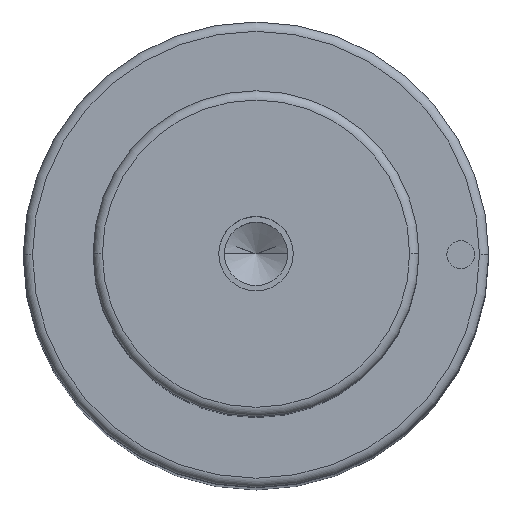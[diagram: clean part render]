
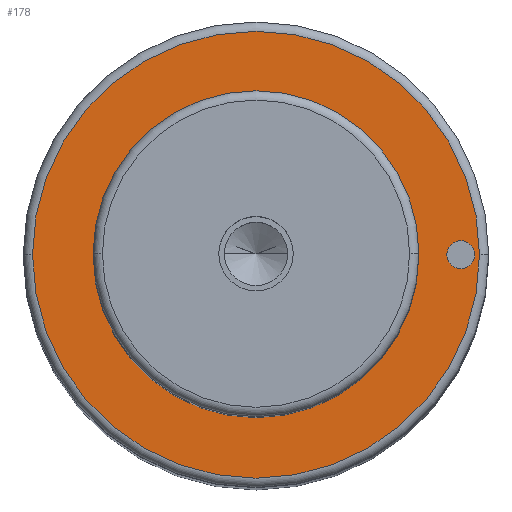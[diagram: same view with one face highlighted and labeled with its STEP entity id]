
A CAD part, top view. The second image highlights one B-rep face of the part: STEP entity #178.
In plain terms, the highlighted planar face has unit normal (0, 0, 1).
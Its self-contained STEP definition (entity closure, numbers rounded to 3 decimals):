
#105=PLANE('',#866);
#115=FACE_BOUND('',#283,.T.);
#116=FACE_BOUND('',#284,.T.);
#117=FACE_BOUND('',#285,.T.);
#178=ADVANCED_FACE('',(#115,#116,#117),#105,.T.);
#283=EDGE_LOOP('',(#473,#474));
#284=EDGE_LOOP('',(#475,#476));
#285=EDGE_LOOP('',(#477,#478));
#333=CIRCLE('',#834,17.5);
#334=CIRCLE('',#836,17.5);
#338=CIRCLE('',#841,24.);
#339=CIRCLE('',#843,24.);
#351=CIRCLE('',#864,1.5);
#352=CIRCLE('',#865,1.5);
#473=ORIENTED_EDGE('',*,*,#666,.F.);
#474=ORIENTED_EDGE('',*,*,#667,.F.);
#475=ORIENTED_EDGE('',*,*,#685,.F.);
#476=ORIENTED_EDGE('',*,*,#686,.F.);
#477=ORIENTED_EDGE('',*,*,#662,.T.);
#478=ORIENTED_EDGE('',*,*,#660,.T.);
#590=VERTEX_POINT('',#1233);
#591=VERTEX_POINT('',#1235);
#592=VERTEX_POINT('',#1241);
#595=VERTEX_POINT('',#1246);
#604=VERTEX_POINT('',#1285);
#605=VERTEX_POINT('',#1286);
#660=EDGE_CURVE('',#591,#590,#333,.T.);
#662=EDGE_CURVE('',#590,#591,#334,.T.);
#666=EDGE_CURVE('',#595,#592,#338,.T.);
#667=EDGE_CURVE('',#592,#595,#339,.T.);
#685=EDGE_CURVE('',#604,#605,#351,.T.);
#686=EDGE_CURVE('',#605,#604,#352,.T.);
#834=AXIS2_PLACEMENT_3D('',#1234,#985,#986);
#836=AXIS2_PLACEMENT_3D('',#1238,#990,#991);
#841=AXIS2_PLACEMENT_3D('',#1247,#1000,#1001);
#843=AXIS2_PLACEMENT_3D('',#1249,#1004,#1005);
#864=AXIS2_PLACEMENT_3D('',#1284,#1052,#1053);
#865=AXIS2_PLACEMENT_3D('',#1287,#1054,#1055);
#866=AXIS2_PLACEMENT_3D('',#1288,#1056,#1057);
#985=DIRECTION('',(0.,0.,-1.));
#986=DIRECTION('',(0.,1.,0.));
#990=DIRECTION('',(0.,0.,-1.));
#991=DIRECTION('',(0.,-1.,0.));
#1000=DIRECTION('',(0.,0.,-1.));
#1001=DIRECTION('',(0.,1.,0.));
#1004=DIRECTION('',(0.,0.,-1.));
#1005=DIRECTION('',(0.,-1.,0.));
#1052=DIRECTION('',(0.,0.,1.));
#1053=DIRECTION('',(0.,1.,0.));
#1054=DIRECTION('',(0.,0.,1.));
#1055=DIRECTION('',(0.,-1.,0.));
#1056=DIRECTION('',(0.,0.,1.));
#1057=DIRECTION('',(0.,-1.,0.));
#1233=CARTESIAN_POINT('',(-17.5,0.,155.));
#1234=CARTESIAN_POINT('',(0.,0.,155.));
#1235=CARTESIAN_POINT('',(17.5,0.,155.));
#1238=CARTESIAN_POINT('',(0.,0.,155.));
#1241=CARTESIAN_POINT('',(-24.,0.,155.));
#1246=CARTESIAN_POINT('',(24.,0.,155.));
#1247=CARTESIAN_POINT('',(0.,0.,155.));
#1249=CARTESIAN_POINT('',(0.,0.,155.));
#1284=CARTESIAN_POINT('',(22.,0.,155.));
#1285=CARTESIAN_POINT('',(20.5,0.,155.));
#1286=CARTESIAN_POINT('',(23.5,0.,155.));
#1287=CARTESIAN_POINT('',(22.,0.,155.));
#1288=CARTESIAN_POINT('',(0.,0.,155.));
